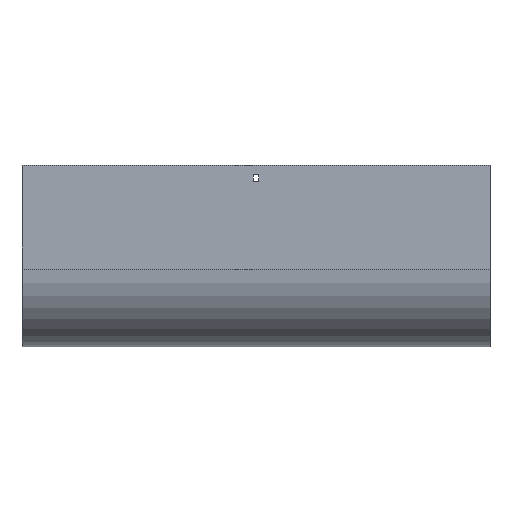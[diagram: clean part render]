
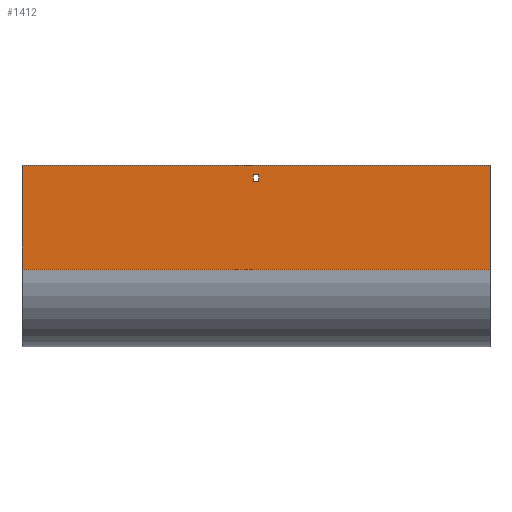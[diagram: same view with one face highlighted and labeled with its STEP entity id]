
A CAD part, front view. The second image highlights one B-rep face of the part: STEP entity #1412.
In plain terms, the highlighted planar face has unit normal (0, -1, 0).
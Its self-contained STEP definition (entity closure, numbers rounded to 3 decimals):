
#60 = EDGE_CURVE ( 'NONE', #590, #1734, #1778, .T. ) ;
#70 = LINE ( 'NONE', #1424, #270 ) ;
#98 = ORIENTED_EDGE ( 'NONE', *, *, #243, .T. ) ;
#110 = EDGE_CURVE ( 'NONE', #1518, #182, #1645, .T. ) ;
#162 = LINE ( 'NONE', #756, #1168 ) ;
#182 = VERTEX_POINT ( 'NONE', #579 ) ;
#191 = VECTOR ( 'NONE', #1297, 1000. ) ;
#199 = CARTESIAN_POINT ( 'NONE',  ( 302., -104., -134. ) ) ;
#243 = EDGE_CURVE ( 'NONE', #1576, #876, #338, .T. ) ;
#261 = CARTESIAN_POINT ( 'NONE',  ( -3.25, -104., -21. ) ) ;
#270 = VECTOR ( 'NONE', #1718, 1000. ) ;
#322 = CARTESIAN_POINT ( 'NONE',  ( -302., -104., -134. ) ) ;
#338 = LINE ( 'NONE', #1272, #527 ) ;
#428 = ORIENTED_EDGE ( 'NONE', *, *, #449, .T. ) ;
#447 = CARTESIAN_POINT ( 'NONE',  ( 302., -104., -134. ) ) ;
#449 = EDGE_CURVE ( 'NONE', #876, #590, #759, .T. ) ;
#455 = LINE ( 'NONE', #322, #1003 ) ;
#518 = ORIENTED_EDGE ( 'NONE', *, *, #1678, .F. ) ;
#527 = VECTOR ( 'NONE', #939, 1000. ) ;
#542 = ORIENTED_EDGE ( 'NONE', *, *, #60, .T. ) ;
#579 = CARTESIAN_POINT ( 'NONE',  ( -302., -104., 0. ) ) ;
#590 = VERTEX_POINT ( 'NONE', #1881 ) ;
#694 = EDGE_LOOP ( 'NONE', ( #428, #542, #1419, #98 ) ) ;
#703 = VECTOR ( 'NONE', #1211, 1000. ) ;
#750 = LINE ( 'NONE', #1357, #703 ) ;
#756 = CARTESIAN_POINT ( 'NONE',  ( 302., -104., -134. ) ) ;
#759 = LINE ( 'NONE', #1817, #1508 ) ;
#768 = EDGE_CURVE ( 'NONE', #1221, #1825, #162, .T. ) ;
#769 = DIRECTION ( 'NONE',  ( 0., 0., -1. ) ) ;
#850 = DIRECTION ( 'NONE',  ( -1., 0., 0. ) ) ;
#876 = VERTEX_POINT ( 'NONE', #1835 ) ;
#939 = DIRECTION ( 'NONE',  ( 0., 0., -1. ) ) ;
#962 = CARTESIAN_POINT ( 'NONE',  ( -302., -104., -134. ) ) ;
#1003 = VECTOR ( 'NONE', #769, 1000. ) ;
#1038 = FACE_OUTER_BOUND ( 'NONE', #1446, .T. ) ;
#1168 = VECTOR ( 'NONE', #1361, 1000. ) ;
#1197 = ORIENTED_EDGE ( 'NONE', *, *, #110, .T. ) ;
#1211 = DIRECTION ( 'NONE',  ( 0., 0., -1. ) ) ;
#1212 = ORIENTED_EDGE ( 'NONE', *, *, #1565, .T. ) ;
#1221 = VERTEX_POINT ( 'NONE', #199 ) ;
#1262 = ORIENTED_EDGE ( 'NONE', *, *, #768, .F. ) ;
#1272 = CARTESIAN_POINT ( 'NONE',  ( 3.25, -104., -21. ) ) ;
#1297 = DIRECTION ( 'NONE',  ( 0., 0., 1. ) ) ;
#1325 = AXIS2_PLACEMENT_3D ( 'NONE', #447, #1903, #1935 ) ;
#1345 = FACE_BOUND ( 'NONE', #694, .T. ) ;
#1351 = VECTOR ( 'NONE', #850, 1000. ) ;
#1357 = CARTESIAN_POINT ( 'NONE',  ( 302., -104., -134. ) ) ;
#1361 = DIRECTION ( 'NONE',  ( -1., 0., 0. ) ) ;
#1363 = DIRECTION ( 'NONE',  ( -1., 0., 0. ) ) ;
#1412 = ADVANCED_FACE ( 'NONE', ( #1345, #1038 ), #1925, .F. ) ;
#1419 = ORIENTED_EDGE ( 'NONE', *, *, #1712, .T. ) ;
#1424 = CARTESIAN_POINT ( 'NONE',  ( -3.25, -104., -12. ) ) ;
#1439 = CARTESIAN_POINT ( 'NONE',  ( -3.25, -104., -12. ) ) ;
#1446 = EDGE_LOOP ( 'NONE', ( #1212, #1262, #518, #1197 ) ) ;
#1508 = VECTOR ( 'NONE', #1363, 1000. ) ;
#1518 = VERTEX_POINT ( 'NONE', #1630 ) ;
#1565 = EDGE_CURVE ( 'NONE', #182, #1825, #455, .T. ) ;
#1576 = VERTEX_POINT ( 'NONE', #1818 ) ;
#1630 = CARTESIAN_POINT ( 'NONE',  ( 302., -104., 0. ) ) ;
#1645 = LINE ( 'NONE', #1788, #1351 ) ;
#1678 = EDGE_CURVE ( 'NONE', #1518, #1221, #750, .T. ) ;
#1712 = EDGE_CURVE ( 'NONE', #1734, #1576, #70, .T. ) ;
#1718 = DIRECTION ( 'NONE',  ( 1., 0., 0. ) ) ;
#1734 = VERTEX_POINT ( 'NONE', #1439 ) ;
#1778 = LINE ( 'NONE', #261, #191 ) ;
#1788 = CARTESIAN_POINT ( 'NONE',  ( 302., -104., 0. ) ) ;
#1817 = CARTESIAN_POINT ( 'NONE',  ( -3.25, -104., -21. ) ) ;
#1818 = CARTESIAN_POINT ( 'NONE',  ( 3.25, -104., -12. ) ) ;
#1825 = VERTEX_POINT ( 'NONE', #962 ) ;
#1835 = CARTESIAN_POINT ( 'NONE',  ( 3.25, -104., -21. ) ) ;
#1881 = CARTESIAN_POINT ( 'NONE',  ( -3.25, -104., -21. ) ) ;
#1903 = DIRECTION ( 'NONE',  ( 0., 1., 0. ) ) ;
#1925 = PLANE ( 'NONE',  #1325 ) ;
#1935 = DIRECTION ( 'NONE',  ( 0., 0., 1. ) ) ;
